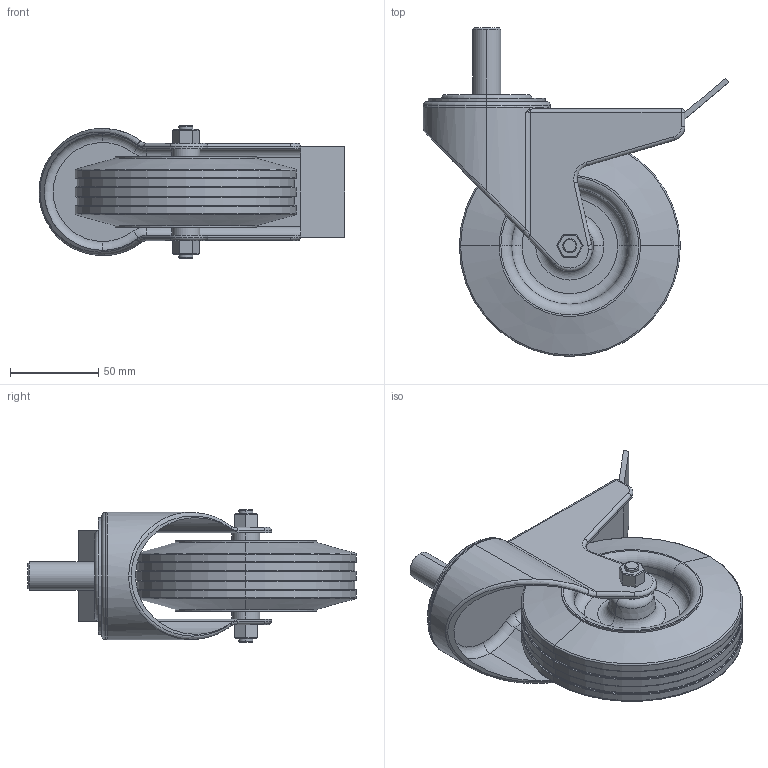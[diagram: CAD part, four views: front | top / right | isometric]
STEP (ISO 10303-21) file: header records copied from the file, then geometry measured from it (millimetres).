
FILE_DESCRIPTION (( 'STEP AP214' ), '1' );
FILE_NAME ('A49 125 M16.step', '2017-04-05T07:53:14', ( '' ), ( '' ), 'SwSTEP 2.0', 'SolidWorks 2015', '' );
FILE_SCHEMA (( 'AUTOMOTIVE_DESIGN' ));
Length unit declared in the file: millimetre
Products named in the file (1): A49 125 M16
Bounding box: 172.97 x 185.97 x 75 mm (x, y, z)
Volume: 463778.1 mm3; surface area: 93312.8 mm2
Topology: 1 solids, 1 shells, 209 faces, 458 edges, 266 vertices
Faces by surface type: cylinder 63, plane 62, torus 60, cone 14, bspline 8, sphere 2
Entity records: 6368 total; most frequent: CARTESIAN_POINT 1237, DIRECTION 1085, ORIENTED_EDGE 908, EDGE_CURVE 454, AXIS2_PLACEMENT_3D 454, VERTEX_POINT 266, CIRCLE 252, EDGE_LOOP 230
